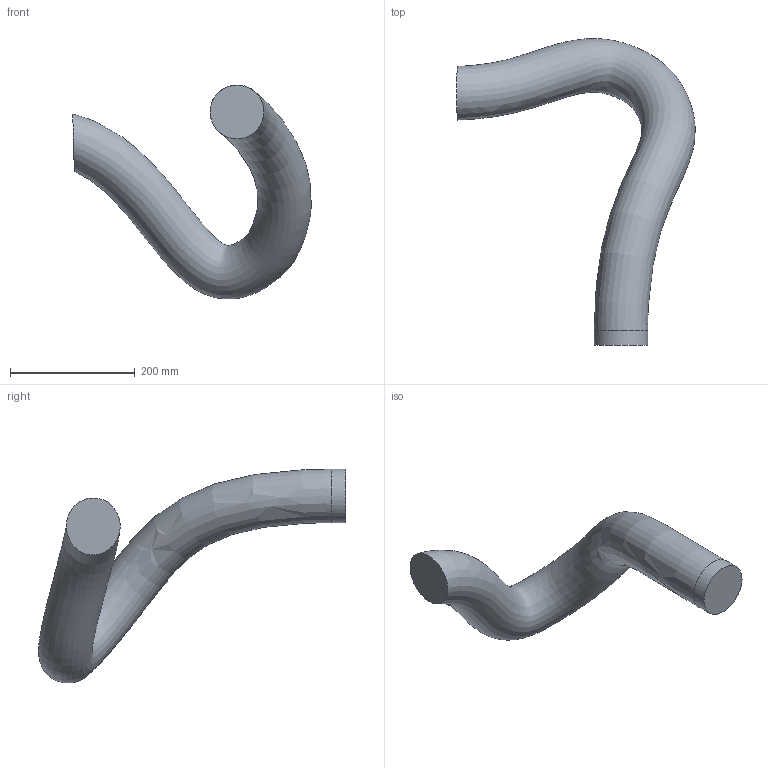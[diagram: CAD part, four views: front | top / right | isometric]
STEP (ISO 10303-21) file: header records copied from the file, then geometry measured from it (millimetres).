
FILE_DESCRIPTION (( 'STEP AP214' ), '1' );
FILE_NAME ('IRB77X0_All-330_OC_00_LINK05_CABLE.step', '2026-01-27T14:53:33', ( '' ), ( '' ), 'SwSTEP 2.0', 'SolidWorks 2024', '' );
FILE_SCHEMA (( 'AUTOMOTIVE_DESIGN' ));
Products named in the file (1): IRB77X0_All-330_OC_00_LINK05_CABLE
Bounding box: 381.71 x 491.47 x 342.42 mm (x, y, z)
Volume: 5386751.1 mm3; surface area: 262924.4 mm2
Topology: 1 solids, 1 shells, 4 faces, 6 edges, 4 vertices
Faces by surface type: plane 2, cylinder 1, bspline 1
Full cylindrical faces by diameter (mm): 86 x1
Entity records: 47572 total; most frequent: CARTESIAN_POINT 47495, DIRECTION 10, ORIENTED_EDGE 6, FACE_OUTER_BOUND 6, EDGE_LOOP 6, AXIS2_PLACEMENT_3D 5, ADVANCED_FACE 4, VERTEX_POINT 3
